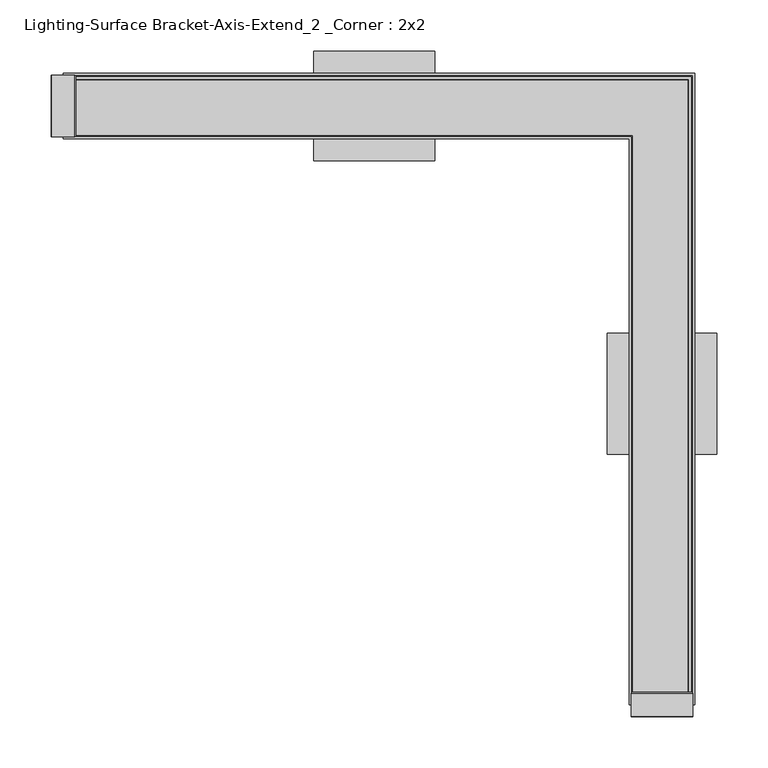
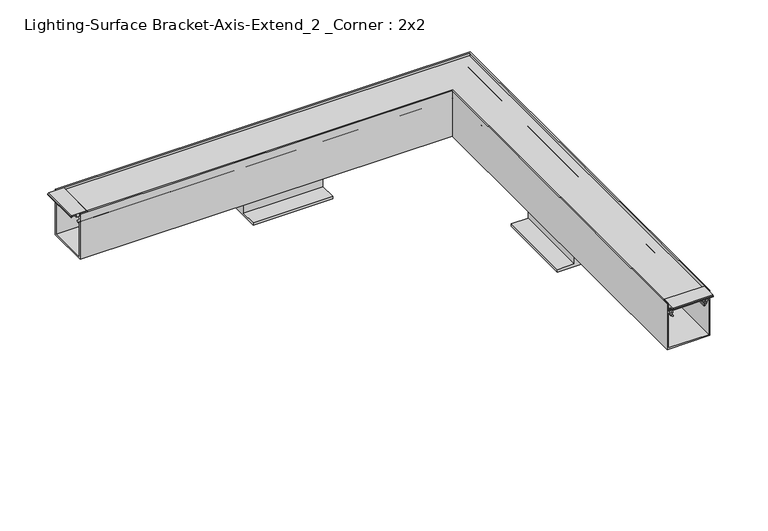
"""IFC4 building model written with IfcOpenShell, lengths in millimetres: light fixture geometry, Lighting-Surface Bracket-Axis-Extend_2 _Corner : 2x2."""

from ifc_helpers import new_model, si_unit, frame, origin, place, context, project, spatial, polyline, circle_curve, ellipse_curve, outline, extrude, source, transform, mapped, element, save
from ifc_brep_helpers import plane_surface, cylinder_surface, revolved_surface, advanced_brep


def lighting_surface_bracket_axis_extend_2_corner_2x2_bc060365(model_context):
    return source(origin(), model_context, "Body", "SolidModel", [
        extrude(outline(polyline([(19.05, 244.3861), (3.9878, 244.3861), (3.9878, 218.9860665), (0.0, 218.9860665), (0.0, 326.6059335), (3.9878, 326.6059335), (3.9878, 301.2059), (19.05, 301.2059), (19.05, 244.3861)])), frame((0.0, -341.30234, 0.0), z_axis=(0.0, 1.0, 0.0), x_axis=(0.0, 0.0, 1.0)), (0.0, 0.0, 1.0), 118.69928),
        extrude(outline(polyline([(-28.4099, 19.05), (28.4099, 19.05), (28.4099, 3.9878), (53.8099335, 3.9878), (53.8099335, 0.0), (-53.8099335, 0.0), (-53.8099335, 3.9878), (-28.4099, 3.9878), (-28.4099, 19.05)])), frame((-68.50634, 0.0, 0.0), z_axis=(1.0, 0.0, 0.0), x_axis=(0.0, 1.0, 0.0)), (0.0, 0.0, 1.0), 118.69928),
        extrude(outline(polyline([(-574.6496, 89.3857861), (-574.6496, 87.91575), (-575.44335, 87.91575), (-575.44335, 88.7095), (-581.914, 88.7095), (-581.914, 85.9032981), (-591.5914, 85.9032981), (-591.5914, 88.7095), (-598.06205, 88.7095), (-598.06205, 87.91575), (-598.8558, 87.91575), (-598.8558, 89.3857861), (-597.9312563, 90.4875), (-575.5741437, 90.4875), (-574.6496, 89.3857861)])), frame((242.824, 0.0, 0.0), z_axis=(1.0, 0.0, 0.0), x_axis=(0.0, 1.0, 0.0)), (0.0, 0.0, 1.0), 59.944),
        extrude(outline(polyline([(89.3857861, -301.8536), (90.4875, -302.7781437), (90.4875, -325.1352563), (89.3857861, -326.0598), (87.91575, -326.0598), (87.91575, -325.26605), (88.7095, -325.26605), (88.7095, -318.7954), (85.9032981, -318.7954), (85.9032981, -309.118), (88.7095, -309.118), (88.7095, -302.64735), (87.91575, -302.64735), (87.91575, -301.8536), (89.3857861, -301.8536)])), frame((0.0, -29.972, 0.0), z_axis=(0.0, 1.0, 0.0), x_axis=(0.0, 0.0, 1.0)), (0.0, 0.0, 1.0), 59.944),
        advanced_brep(
        [(-304.8, -24.1727262, 85.5979991), (-304.8, -24.5114181, 79.1353737), (-304.8, -25.3818814, 72.5294903), (-304.8, -24.5665956, 71.0317575), (-304.8, -23.2119066, 69.8323555), (-304.8, -24.192808, 68.5043369), (-304.8, -25.7659952, 69.8971908), (-304.8, -27.1108807, 73.72776), (-304.8, -25.4753941, 77.7669658), (-304.8, -26.1394859, 79.6161789), (-304.8, -25.825992, 85.5979991), (-304.8, -28.829, 85.5979991), (-304.8, -28.829, 87.503), (-304.8, 28.829, 87.503), (-304.8, 28.829, 85.5979991), (-304.8, 25.825992, 85.5979991), (-304.8, 26.1394859, 79.6161789), (-304.8, 25.4753941, 77.7669658), (-304.8, 27.1108807, 73.72776), (-304.8, 25.7659952, 69.8971908), (-304.8, 24.192808, 68.5043369), (-304.8, 23.2119066, 69.8323555), (-304.8, 24.5665956, 71.0317575), (-304.8, 25.3818814, 72.5294903), (-304.8, 24.5114181, 79.1353737), (-304.8, 24.1727262, 85.5979991), (248.6232738, -586.7527, 85.5979991), (296.9687262, -586.7527, 85.5979991), (297.3074181, -586.7527, 79.1353737), (298.1778814, -586.7527, 72.5294903), (297.3625956, -586.7527, 71.0317575), (296.0079066, -586.7527, 69.8323555), (296.988808, -586.7527, 68.5043369), (298.5619952, -586.7527, 69.8971908), (299.9068807, -586.7527, 73.72776), (298.2713941, -586.7527, 77.7669658), (298.9354859, -586.7527, 79.6161789), (298.621992, -586.7527, 85.5979991), (301.625, -586.7527, 85.5979991), (301.625, -586.7527, 87.503), (243.967, -586.7527, 87.503), (243.967, -586.7527, 85.5979991), (246.970008, -586.7527, 85.5979991), (246.6565141, -586.7527, 79.6161789), (247.3206059, -586.7527, 77.7669658), (245.6851193, -586.7527, 73.72776), (247.0300048, -586.7527, 69.8971908), (248.603192, -586.7527, 68.5043369), (249.5840934, -586.7527, 69.8323555), (248.2294044, -586.7527, 71.0317575), (247.4141186, -586.7527, 72.5294903), (248.2845819, -586.7527, 79.1353737), (248.6232738, -24.1727262, 85.5979991), (248.2845819, -24.5114181, 79.1353737), (247.4141186, -25.3818814, 72.5294903), (248.2294044, -24.5665956, 71.0317575), (249.5840934, -23.2119066, 69.8323555), (248.603192, -24.192808, 68.5043369), (247.0300048, -25.7659952, 69.8971908), (245.6851193, -27.1108807, 73.72776), (247.3206059, -25.4753941, 77.7669658), (246.6565141, -26.1394859, 79.6161789), (246.970008, -25.825992, 85.5979991), (243.967, -28.829, 85.5979991), (243.967, -28.829, 87.503), (301.625, 28.829, 87.503), (301.625, 28.829, 85.5979991), (298.621992, 25.825992, 85.5979991), (298.9354859, 26.1394859, 79.6161789), (298.2713941, 25.4753941, 77.7669658), (299.9068807, 27.1108807, 73.72776), (298.5619952, 25.7659952, 69.8971908), (296.988808, 24.192808, 68.5043369), (296.0079066, 23.2119066, 69.8323555), (297.3625956, 24.5665956, 71.0317575), (298.1778814, 25.3818814, 72.5294903), (297.3074181, 24.5114181, 79.1353737), (296.9687262, 24.1727262, 85.5979991)],
        [
            (0, 1),
            (1, 2, circle_curve(frame((-304.8, -27.2542, 76.1365), z_axis=(-1.0, 0.0, 0.0), x_axis=(0.0, 0.6748971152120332, 0.7379118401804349)), 4.064)),
            (2, 3, circle_curve(frame((-304.8, -22.149344, 73.3183457), z_axis=(1.0, 0.0, 0.0), x_axis=(0.0, -0.9714904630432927, -0.23707863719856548)), 3.3274001)),
            (3, 4, circle_curve(frame((-304.8, -17.1303177, 78.0660708), z_axis=(1.0, 0.0, 0.0), x_axis=(0.0, -0.7264901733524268, -0.68717685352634)), 10.2362001)),
            (4, 5, circle_curve(frame((-304.8, -23.7023573, 69.1683462), z_axis=(-1.0, 0.0, 0.0), x_axis=(0.0, 0.5941256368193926, 0.8043722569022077)), 0.8255)),
            (5, 6, circle_curve(frame((-304.8, -17.1303169, 78.0660717), z_axis=(-1.0, 0.0, 0.0), x_axis=(0.0, -0.594125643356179, -0.8043722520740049)), 11.8872013)),
            (6, 7, circle_curve(frame((-304.8, -22.149344, 73.3183457), z_axis=(-1.0, 0.0, 0.0), x_axis=(0.0, -0.7264685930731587, -0.6871996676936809)), 4.9784001)),
            (7, 8, circle_curve(frame((-304.8, -27.2542, 76.1365), z_axis=(1.0, 0.0, 0.0), x_axis=(0.0, 0.05939464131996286, -0.9982345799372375)), 2.413)),
            (8, 9, circle_curve(frame((-304.8, -23.6029669, 79.4832456), z_axis=(-1.0, 0.0, 0.0), x_axis=(0.0, -0.7371760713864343, -0.675700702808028)), 2.54)),
            (9, 10),
            (10, 11),
            (11, 12),
            (12, 13),
            (13, 14),
            (14, 15),
            (15, 16),
            (16, 17, circle_curve(frame((-304.8, 23.6029669, 79.4832456), z_axis=(-1.0, 0.0, 0.0), x_axis=(0.0, 0.9986295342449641, 0.05233596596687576)), 2.54)),
            (17, 18, circle_curve(frame((-304.8, 27.2542, 76.1365), z_axis=(1.0, 0.0, 0.0), x_axis=(0.0, -0.7371760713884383, 0.6757007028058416)), 2.413)),
            (18, 19, circle_curve(frame((-304.8, 22.149344, 73.3183457), z_axis=(-1.0, 0.0, 0.0), x_axis=(0.0, 0.9966127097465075, 0.0822381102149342)), 4.9784001)),
            (19, 20, circle_curve(frame((-304.8, 17.1303169, 78.0660717), z_axis=(-1.0, 0.0, 0.0), x_axis=(0.0, 0.7264685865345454, -0.6871996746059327)), 11.8872013)),
            (20, 21, circle_curve(frame((-304.8, 23.7023573, 69.1683462), z_axis=(-1.0, 0.0, 0.0), x_axis=(0.0, 0.5941256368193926, -0.8043722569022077)), 0.8255)),
            (21, 22, circle_curve(frame((-304.8, 17.1303177, 78.0660708), z_axis=(1.0, 0.0, 0.0), x_axis=(0.0, 0.5941256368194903, -0.8043722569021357)), 10.2362001)),
            (22, 23, circle_curve(frame((-304.8, 22.149344, 73.3183457), z_axis=(1.0, 0.0, 0.0), x_axis=(0.0, 0.7265349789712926, -0.6871294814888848)), 3.3274001)),
            (23, 24, circle_curve(frame((-304.8, 27.2542, 76.1365), z_axis=(-1.0, 0.0, 0.0), x_axis=(0.0, -0.46070831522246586, -0.8875516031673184)), 4.064)),
            (24, 25),
            (25, 0),
            (26, 27),
            (27, 28),
            (28, 29, circle_curve(frame((300.0502, -586.7527, 76.1365), z_axis=(0.0, -1.0, 0.0), x_axis=(-0.46070831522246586, 0.0, -0.8875516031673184)), 4.064)),
            (29, 30, circle_curve(frame((294.945344, -586.7527, 73.3183457), z_axis=(0.0, 1.0, 0.0), x_axis=(0.7265349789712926, 0.0, -0.6871294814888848)), 3.3274001)),
            (30, 31, circle_curve(frame((289.9263177, -586.7527, 78.0660708), z_axis=(0.0, 1.0, 0.0), x_axis=(0.5941256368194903, 0.0, -0.8043722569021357)), 10.2362001)),
            (31, 32, circle_curve(frame((296.4983573, -586.7527, 69.1683462), z_axis=(0.0, -1.0, 0.0), x_axis=(0.5941256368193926, 0.0, -0.8043722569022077)), 0.8255)),
            (32, 33, circle_curve(frame((289.9263169, -586.7527, 78.0660717), z_axis=(0.0, -1.0, 0.0), x_axis=(0.7264685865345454, 0.0, -0.6871996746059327)), 11.8872013)),
            (33, 34, circle_curve(frame((294.945344, -586.7527, 73.3183457), z_axis=(0.0, -1.0, 0.0), x_axis=(0.9966127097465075, 0.0, 0.0822381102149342)), 4.9784001)),
            (34, 35, circle_curve(frame((300.0502, -586.7527, 76.1365), z_axis=(0.0, 1.0, 0.0), x_axis=(-0.7371760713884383, 0.0, 0.6757007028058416)), 2.413)),
            (35, 36, circle_curve(frame((296.3989669, -586.7527, 79.4832456), z_axis=(0.0, -1.0, 0.0), x_axis=(0.9986295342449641, 0.0, 0.05233596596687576)), 2.54)),
            (36, 37),
            (37, 38),
            (38, 39),
            (39, 40),
            (40, 41),
            (41, 42),
            (42, 43),
            (43, 44, circle_curve(frame((249.1930331, -586.7527, 79.4832456), z_axis=(0.0, -1.0, 0.0), x_axis=(-0.7371760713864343, 0.0, -0.675700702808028)), 2.54)),
            (44, 45, circle_curve(frame((245.5418, -586.7527, 76.1365), z_axis=(0.0, 1.0, 0.0), x_axis=(0.05939464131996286, 0.0, -0.9982345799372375)), 2.413)),
            (45, 46, circle_curve(frame((250.646656, -586.7527, 73.3183457), z_axis=(0.0, -1.0, 0.0), x_axis=(-0.7264685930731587, 0.0, -0.6871996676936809)), 4.9784001)),
            (46, 47, circle_curve(frame((255.6656831, -586.7527, 78.0660717), z_axis=(0.0, -1.0, 0.0), x_axis=(-0.594125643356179, 0.0, -0.8043722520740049)), 11.8872013)),
            (47, 48, circle_curve(frame((249.0936427, -586.7527, 69.1683462), z_axis=(0.0, -1.0, 0.0), x_axis=(0.5941256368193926, 0.0, 0.8043722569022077)), 0.8255)),
            (48, 49, circle_curve(frame((255.6656823, -586.7527, 78.0660708), z_axis=(0.0, 1.0, 0.0), x_axis=(-0.7264901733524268, 0.0, -0.68717685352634)), 10.2362001)),
            (49, 50, circle_curve(frame((250.646656, -586.7527, 73.3183457), z_axis=(0.0, 1.0, 0.0), x_axis=(-0.9714904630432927, 0.0, -0.23707863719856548)), 3.3274001)),
            (50, 51, circle_curve(frame((245.5418, -586.7527, 76.1365), z_axis=(0.0, -1.0, 0.0), x_axis=(0.6748971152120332, 0.0, 0.7379118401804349)), 4.064)),
            (51, 26),
            (0, 52),
            (52, 53),
            (53, 1),
            (53, 54, ellipse_curve(frame((245.5418, -27.2542, 76.1365), z_axis=(-0.7071067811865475, 0.7071067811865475, 0.0), x_axis=(-0.7071067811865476, -0.7071067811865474, 0.0)), 5.7473639, 4.064)),
            (54, 2),
            (54, 55, ellipse_curve(frame((250.646656, -22.149344, 73.3183457), z_axis=(0.7071067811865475, -0.7071067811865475, 0.0), x_axis=(0.7071067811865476, 0.7071067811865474, 0.0)), 4.7056543, 3.3274001)),
            (55, 3),
            (55, 56, ellipse_curve(frame((255.6656823, -17.1303177, 78.0660708), z_axis=(0.7071067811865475, -0.7071067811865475, 0.0), x_axis=(0.7071067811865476, 0.7071067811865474, 0.0)), 14.476173, 10.2362001)),
            (56, 4),
            (56, 57, ellipse_curve(frame((249.0936427, -23.7023573, 69.1683462), z_axis=(-0.7071067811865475, 0.7071067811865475, 0.0), x_axis=(-0.7071067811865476, -0.7071067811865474, 0.0)), 1.1674333, 0.8255)),
            (57, 5),
            (57, 58, ellipse_curve(frame((255.6656831, -17.1303169, 78.0660717), z_axis=(-0.7071067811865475, 0.7071067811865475, 0.0), x_axis=(-0.7071067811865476, -0.7071067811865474, 0.0)), 16.8110412, 11.8872013)),
            (58, 6),
            (58, 59, ellipse_curve(frame((250.646656, -22.149344, 73.3183457), z_axis=(-0.7071067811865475, 0.7071067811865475, 0.0), x_axis=(-0.7071067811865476, -0.7071067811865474, 0.0)), 7.0405209, 4.9784001)),
            (59, 7),
            (59, 60, ellipse_curve(frame((245.5418, -27.2542, 76.1365), z_axis=(0.7071067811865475, -0.7071067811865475, 0.0), x_axis=(0.7071067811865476, 0.7071067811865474, 0.0)), 3.4124973, 2.413)),
            (60, 8),
            (60, 61, ellipse_curve(frame((249.1930331, -23.6029669, 79.4832456), z_axis=(-0.7071067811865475, 0.7071067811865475, 0.0), x_axis=(-0.7071067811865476, -0.7071067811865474, 0.0)), 3.5921024, 2.54)),
            (61, 9),
            (61, 62),
            (62, 10),
            (62, 42),
            (41, 63),
            (63, 11),
            (63, 64),
            (64, 12),
            (64, 40),
            (39, 65),
            (65, 13),
            (65, 66),
            (66, 14),
            (66, 38),
            (37, 67),
            (67, 15),
            (67, 68),
            (68, 16),
            (68, 69, ellipse_curve(frame((296.3989669, 23.6029669, 79.4832456), z_axis=(-0.7071067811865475, 0.7071067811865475, 0.0), x_axis=(-0.7071067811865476, -0.7071067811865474, 0.0)), 3.5921024, 2.54)),
            (69, 17),
            (69, 70, ellipse_curve(frame((300.0502, 27.2542, 76.1365), z_axis=(0.7071067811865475, -0.7071067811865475, 0.0), x_axis=(0.7071067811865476, 0.7071067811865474, 0.0)), 3.4124973, 2.413)),
            (70, 18),
            (70, 71, ellipse_curve(frame((294.945344, 22.149344, 73.3183457), z_axis=(-0.7071067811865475, 0.7071067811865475, 0.0), x_axis=(-0.7071067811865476, -0.7071067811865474, 0.0)), 7.0405209, 4.9784001)),
            (71, 19),
            (71, 72, ellipse_curve(frame((289.9263169, 17.1303169, 78.0660717), z_axis=(-0.7071067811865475, 0.7071067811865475, 0.0), x_axis=(-0.7071067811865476, -0.7071067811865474, 0.0)), 16.8110412, 11.8872013)),
            (72, 20),
            (72, 73, ellipse_curve(frame((296.4983573, 23.7023573, 69.1683462), z_axis=(-0.7071067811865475, 0.7071067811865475, 0.0), x_axis=(-0.7071067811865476, -0.7071067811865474, 0.0)), 1.1674333, 0.8255)),
            (73, 21),
            (73, 74, ellipse_curve(frame((289.9263177, 17.1303177, 78.0660708), z_axis=(0.7071067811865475, -0.7071067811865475, 0.0), x_axis=(0.7071067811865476, 0.7071067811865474, 0.0)), 14.476173, 10.2362001)),
            (74, 22),
            (74, 75, ellipse_curve(frame((294.945344, 22.149344, 73.3183457), z_axis=(0.7071067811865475, -0.7071067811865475, 0.0), x_axis=(0.7071067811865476, 0.7071067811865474, 0.0)), 4.7056543, 3.3274001)),
            (75, 23),
            (75, 76, ellipse_curve(frame((300.0502, 27.2542, 76.1365), z_axis=(-0.7071067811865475, 0.7071067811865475, 0.0), x_axis=(-0.7071067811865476, -0.7071067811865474, 0.0)), 5.7473639, 4.064)),
            (76, 24),
            (76, 77),
            (77, 25),
            (77, 27),
            (26, 52),
            (51, 53),
            (50, 54),
            (49, 55),
            (48, 56),
            (47, 57),
            (46, 58),
            (45, 59),
            (44, 60),
            (43, 61),
            (36, 68),
            (35, 69),
            (34, 70),
            (33, 71),
            (32, 72),
            (31, 73),
            (30, 74),
            (29, 75),
            (28, 76),
        ],
        [
            plane_surface(frame((-304.8, 0.0, 0.0), z_axis=(-1.0, 0.0, 0.0), x_axis=(0.0, 0.0, 1.0))),
            plane_surface(frame((272.796, -586.7527, 0.0), z_axis=(0.0, -1.0, 0.0), x_axis=(0.0, 0.0, 1.0))),
            plane_surface(frame((-304.8, -24.1727262, 85.5979991), z_axis=(0.0, 0.9986295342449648, -0.05233596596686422), x_axis=(1.0, 0.0, 0.0))),
            cylinder_surface(frame((-304.8, -27.2542, 76.1365), z_axis=(-1.0, 0.0, 0.0), x_axis=(0.0, 0.6748971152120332, 0.7379118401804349)), 4.064),
            revolved_surface(polyline([(253.97405606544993, -25.3818814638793, 72.52949021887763), (-304.8, -25.3818814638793, 72.52949021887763)]), (-304.8, -22.149344, 73.3183457), (1.0000000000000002, 0.0, 0.0)),
            revolved_surface(polyline([(265.9018823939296, -24.566816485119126, 71.031991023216), (-304.8, -24.566816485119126, 71.031991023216)]), (-304.8, -17.1303177, 78.0660708), (1.0, 0.0, 0.0)),
            cylinder_surface(frame((-304.8, -23.7023573, 69.1683462), z_axis=(-1.0, 0.0, 0.0), x_axis=(0.0, 0.5941256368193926, 0.8043722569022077)), 0.8255),
            cylinder_surface(frame((-304.8, -17.1303169, 78.0660717), z_axis=(-1.0, 0.0, 0.0), x_axis=(0.0, -0.594125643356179, -0.8043722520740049)), 11.8872013),
            cylinder_surface(frame((-304.8, -22.149344, 73.3183457), z_axis=(-1.0, 0.0, 0.0), x_axis=(0.0, -0.7264685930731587, -0.6871996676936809)), 4.9784001),
            revolved_surface(polyline([(247.95479998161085, -27.11088073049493, 73.72775995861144), (-304.8, -27.11088073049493, 73.72775995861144)]), (-304.8, -27.2542, 76.1365), (1.0, 0.0, 0.0)),
            cylinder_surface(frame((-304.8, -23.6029669, 79.4832456), z_axis=(-1.0, 0.0, 0.0), x_axis=(0.0, -0.7371760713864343, -0.675700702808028)), 2.54),
            plane_surface(frame((-304.8, -26.1394859, 79.6161789), z_axis=(0.0, -0.9986295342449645, 0.05233596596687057), x_axis=(1.0, 0.0, 0.0))),
            plane_surface(frame((-304.8, -25.825992, 85.5979991), z_axis=(0.0, 0.0, -1.0), x_axis=(1.0, 0.0, 0.0))),
            plane_surface(frame((-304.8, -28.829, 85.5979991), z_axis=(0.0, -1.0, 0.0), x_axis=(1.0, 0.0, 0.0))),
            plane_surface(frame((-304.8, -28.829, 87.503), z_axis=(0.0, 0.0, 1.0), x_axis=(1.0, 0.0, 0.0))),
            plane_surface(frame((-304.8, 28.829, 87.503), z_axis=(0.0, 1.0, 0.0), x_axis=(1.0, 0.0, 0.0))),
            plane_surface(frame((-304.8, 28.829, 85.5979991), z_axis=(0.0, 0.0, -1.0), x_axis=(1.0, 0.0, 0.0))),
            plane_surface(frame((-304.8, 25.825992, 85.5979991), z_axis=(0.0, 0.9986295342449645, 0.05233596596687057), x_axis=(1.0, 0.0, 0.0))),
            cylinder_surface(frame((-304.8, 23.6029669, 79.4832456), z_axis=(-1.0, 0.0, 0.0), x_axis=(0.0, 0.9986295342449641, 0.05233596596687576)), 2.54),
            revolved_surface(polyline([(302.4631999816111, 25.4753941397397, 77.76696579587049), (-304.8, 25.4753941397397, 77.76696579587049)]), (-304.8, 27.2542, 76.1365), (1.0000000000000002, 0.0, 0.0)),
            cylinder_surface(frame((-304.8, 22.149344, 73.3183457), z_axis=(-1.0000000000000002, 0.0, 0.0), x_axis=(0.0, 0.9966127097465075, 0.0822381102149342)), 4.9784001),
            cylinder_surface(frame((-304.8, 17.1303169, 78.0660717), z_axis=(-1.0, 0.0, 0.0), x_axis=(0.0, 0.7264685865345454, -0.6871996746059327)), 11.8872013),
            cylinder_surface(frame((-304.8, 23.7023573, 69.1683462), z_axis=(-1.0, 0.0, 0.0), x_axis=(0.0, 0.5941256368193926, -0.8043722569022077)), 0.8255),
            revolved_surface(polyline([(300.16251779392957, 23.21190660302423, 69.83235542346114), (-304.8, 23.21190660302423, 69.83235542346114)]), (-304.8, 17.1303177, 78.0660708), (1.0, 0.0, 0.0)),
            revolved_surface(polyline([(298.2727440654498, 24.566816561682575, 71.03199099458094), (-304.8, 24.566816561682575, 71.03199099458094)]), (-304.8, 22.149344, 73.3183457), (1.0000000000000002, 0.0, 0.0)),
            cylinder_surface(frame((-304.8, 27.2542, 76.1365), z_axis=(-1.0, 0.0, 0.0), x_axis=(0.0, -0.46070831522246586, -0.8875516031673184)), 4.064),
            plane_surface(frame((-304.8, 24.5114181, 79.1353737), z_axis=(0.0, -0.9986295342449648, -0.05233596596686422), x_axis=(1.0, 0.0, 0.0))),
            plane_surface(frame((-304.8, 24.1727262, 85.5979991), z_axis=(0.0, 0.0, -1.0), x_axis=(1.0, 0.0, 0.0))),
            plane_surface(frame((248.6232738, -24.1727262, 85.5979991), z_axis=(0.9986295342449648, 0.0, -0.05233596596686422), x_axis=(0.0, -1.0, 0.0))),
            cylinder_surface(frame((245.5418, 0.0, 76.1365), z_axis=(0.0, 1.0, 0.0), x_axis=(0.6748971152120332, 0.0, 0.7379118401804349)), 4.064),
            revolved_surface(polyline([(247.4141185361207, -586.7527000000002, 72.52949021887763), (247.4141185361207, -18.82194393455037, 72.52949021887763)]), (250.646656, 0.0, 73.3183457), (0.0, -1.0000000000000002, 0.0)),
            revolved_surface(polyline([(248.22918351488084, -586.7527, 71.031991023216), (248.22918351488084, -6.894117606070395, 71.031991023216)]), (255.6656823, 0.0, 78.0660708), (0.0, -1.0, 0.0)),
            cylinder_surface(frame((249.0936427, 0.0, 69.1683462), z_axis=(0.0, 1.0, 0.0), x_axis=(0.5941256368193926, 0.0, 0.8043722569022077)), 0.8255),
            cylinder_surface(frame((255.6656831, 0.0, 78.0660717), z_axis=(0.0, 1.0, 0.0), x_axis=(-0.594125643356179, 0.0, -0.8043722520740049)), 11.8872013),
            cylinder_surface(frame((250.646656, 0.0, 73.3183457), z_axis=(0.0, 1.0, 0.0), x_axis=(-0.7264685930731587, 0.0, -0.6871996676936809)), 4.9784001),
            revolved_surface(polyline([(245.68511926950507, -586.7527, 73.72775995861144), (245.68511926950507, -24.841200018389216, 73.72775995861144)]), (245.5418, 0.0, 76.1365), (0.0, -1.0, 0.0)),
            cylinder_surface(frame((249.1930331, 0.0, 79.4832456), z_axis=(0.0, 1.0, 0.0), x_axis=(-0.7371760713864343, 0.0, -0.675700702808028)), 2.54),
            plane_surface(frame((246.6565141, -26.1394859, 79.6161789), z_axis=(-0.9986295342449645, 0.0, 0.05233596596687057), x_axis=(0.0, -1.0, 0.0))),
            plane_surface(frame((243.967, -28.829, 85.5979991), z_axis=(-1.0, 0.0, 0.0), x_axis=(0.0, -1.0, 0.0))),
            plane_surface(frame((301.625, 28.829, 87.503), z_axis=(1.0, 0.0, 0.0), x_axis=(0.0, -1.0, 0.0))),
            plane_surface(frame((298.621992, 25.825992, 85.5979991), z_axis=(0.9986295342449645, 0.0, 0.05233596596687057), x_axis=(0.0, -1.0, 0.0))),
            cylinder_surface(frame((296.3989669, 0.0, 79.4832456), z_axis=(0.0, 1.0, 0.0), x_axis=(0.9986295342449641, 0.0, 0.05233596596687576)), 2.54),
            revolved_surface(polyline([(298.2713941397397, -586.7527000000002, 77.76696579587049), (298.2713941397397, 29.6671999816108, 77.76696579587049)]), (300.0502, 0.0, 76.1365), (0.0, -1.0000000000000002, 0.0)),
            cylinder_surface(frame((294.945344, 0.0, 73.3183457), z_axis=(0.0, 1.0000000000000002, 0.0), x_axis=(0.9966127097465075, 0.0, 0.0822381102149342)), 4.9784001),
            cylinder_surface(frame((289.9263169, 0.0, 78.0660717), z_axis=(0.0, 1.0, 0.0), x_axis=(0.7264685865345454, 0.0, -0.6871996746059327)), 11.8872013),
            cylinder_surface(frame((296.4983573, 0.0, 69.1683462), z_axis=(0.0, 1.0, 0.0), x_axis=(0.5941256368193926, 0.0, -0.8043722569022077)), 0.8255),
            revolved_surface(polyline([(296.00790660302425, -586.7527, 69.83235542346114), (296.00790660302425, 27.366517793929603, 69.83235542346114)]), (289.9263177, 0.0, 78.0660708), (0.0, -1.0, 0.0)),
            revolved_surface(polyline([(297.36281656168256, -586.7527000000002, 71.03199099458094), (297.36281656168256, 25.476744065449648, 71.03199099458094)]), (294.945344, 0.0, 73.3183457), (0.0, -1.0000000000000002, 0.0)),
            cylinder_surface(frame((300.0502, 0.0, 76.1365), z_axis=(0.0, 1.0, 0.0), x_axis=(-0.46070831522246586, 0.0, -0.8875516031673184)), 4.064),
            plane_surface(frame((297.3074181, 24.5114181, 79.1353737), z_axis=(-0.9986295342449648, 0.0, -0.05233596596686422), x_axis=(0.0, -1.0, 0.0))),
        ],
        [
            (0, [[1, 2, 3, 4, 5, 6, 7, 8, 9, 10, 11, 12, 13, 14, 15, 16, 17, 18, 19, 20, 21, 22, 23, 24, 25, 26]]),
            (1, [[27, 28, 29, 30, 31, 32, 33, 34, 35, 36, 37, 38, 39, 40, 41, 42, 43, 44, 45, 46, 47, 48, 49, 50, 51, 52]]),
            (2, [[-1, 53, 54, 55]]),
            (3, [[-2, -55, 56, 57]]),
            (4, [[-3, -57, 58, 59]]),
            (5, [[-4, -59, 60, 61]]),
            (6, [[-5, -61, 62, 63]]),
            (7, [[-6, -63, 64, 65]]),
            (8, [[-7, -65, 66, 67]]),
            (9, [[-8, -67, 68, 69]]),
            (10, [[-9, -69, 70, 71]]),
            (11, [[-10, -71, 72, 73]]),
            (12, [[-11, -73, 74, -42, 75, 76]]),
            (13, [[-12, -76, 77, 78]]),
            (14, [[-13, -78, 79, -40, 80, 81]]),
            (15, [[-14, -81, 82, 83]]),
            (16, [[-15, -83, 84, -38, 85, 86]]),
            (17, [[-16, -86, 87, 88]]),
            (18, [[-17, -88, 89, 90]]),
            (19, [[-18, -90, 91, 92]]),
            (20, [[-19, -92, 93, 94]]),
            (21, [[-20, -94, 95, 96]]),
            (22, [[-21, -96, 97, 98]]),
            (23, [[-22, -98, 99, 100]]),
            (24, [[-23, -100, 101, 102]]),
            (25, [[-24, -102, 103, 104]]),
            (26, [[-25, -104, 105, 106]]),
            (27, [[-26, -106, 107, -27, 108, -53]]),
            (28, [[-54, -108, -52, 109]]),
            (29, [[-56, -109, -51, 110]]),
            (30, [[-58, -110, -50, 111]]),
            (31, [[-60, -111, -49, 112]]),
            (32, [[-62, -112, -48, 113]]),
            (33, [[-64, -113, -47, 114]]),
            (34, [[-66, -114, -46, 115]]),
            (35, [[-68, -115, -45, 116]]),
            (36, [[-70, -116, -44, 117]]),
            (37, [[-72, -117, -43, -74]]),
            (38, [[-77, -75, -41, -79]]),
            (39, [[-82, -80, -39, -84]]),
            (40, [[-87, -85, -37, 118]]),
            (41, [[-89, -118, -36, 119]]),
            (42, [[-91, -119, -35, 120]]),
            (43, [[-93, -120, -34, 121]]),
            (44, [[-95, -121, -33, 122]]),
            (45, [[-97, -122, -32, 123]]),
            (46, [[-99, -123, -31, 124]]),
            (47, [[-101, -124, -30, 125]]),
            (48, [[-103, -125, -29, 126]]),
            (49, [[-105, -126, -28, -107]]),
        ],
    ),
        advanced_brep(
        [(-313.9567, -29.972, 75.5777), (-313.9567, -29.972, 21.082), (-313.9567, 29.972, 21.082), (-313.9567, 29.972, 75.5777), (-313.9567, 28.1325797, 75.5777), (-313.9567, 25.8730546, 74.2731626), (-313.9567, 24.6896516, 76.5283682), (-313.9567, 28.067, 79.3623), (-313.9567, 28.067, 77.6097), (-313.9567, 29.972, 77.6097), (-313.9567, 29.972, 84.1375), (-313.9567, 28.067, 84.1375), (-313.9567, 28.067, 82.6135), (-313.9567, 26.416, 82.7000252), (-313.9567, 26.416, 85.4075), (-313.9567, 29.972, 85.4075), (-313.9567, 29.972, 90.4875), (-313.9567, 32.004, 90.4875), (-313.9567, 32.004, 19.05), (-313.9567, -32.004, 19.05), (-313.9567, -32.004, 90.4875), (-313.9567, -29.972, 90.4875), (-313.9567, -29.972, 85.4075), (-313.9567, -26.416, 85.4075), (-313.9567, -26.416, 82.7000252), (-313.9567, -28.067, 82.6135), (-313.9567, -28.067, 84.1375), (-313.9567, -29.972, 84.1375), (-313.9567, -29.972, 77.6097), (-313.9567, -28.067, 77.6097), (-313.9567, -28.067, 79.3623), (-313.9567, -24.6896516, 76.5283682), (-313.9567, -25.8730546, 74.2731626), (-313.9567, -28.1325797, 75.5777), (242.824, -586.7527, 75.5777), (244.6634203, -586.7527, 75.5777), (246.9229454, -586.7527, 74.2731626), (248.1063484, -586.7527, 76.5283682), (244.729, -586.7527, 79.3623), (244.729, -586.7527, 77.6097), (242.824, -586.7527, 77.6097), (242.824, -586.7527, 84.1375), (244.729, -586.7527, 84.1375), (244.729, -586.7527, 82.6135), (246.38, -586.7527, 82.7000252), (246.38, -586.7527, 85.4075), (242.824, -586.7527, 85.4075), (242.824, -586.7527, 90.4875), (240.792, -586.7527, 90.4875), (240.792, -586.7527, 19.05), (304.8, -586.7527, 19.05), (304.8, -586.7527, 90.4875), (302.768, -586.7527, 90.4875), (302.768, -586.7527, 85.4075), (299.212, -586.7527, 85.4075), (299.212, -586.7527, 82.7000252), (300.863, -586.7527, 82.6135), (300.863, -586.7527, 84.1375), (302.768, -586.7527, 84.1375), (302.768, -586.7527, 77.6097), (300.863, -586.7527, 77.6097), (300.863, -586.7527, 79.3623), (297.4856516, -586.7527, 76.5283682), (298.6690546, -586.7527, 74.2731626), (300.9285797, -586.7527, 75.5777), (302.768, -586.7527, 75.5777), (302.768, -586.7527, 21.082), (242.824, -586.7527, 21.082), (242.824, -29.972, 75.5777), (242.824, -29.972, 21.082), (302.768, 29.972, 21.082), (302.768, 29.972, 75.5777), (300.9285797, 28.1325797, 75.5777), (298.6690546, 25.8730546, 74.2731626), (297.4856516, 24.6896516, 76.5283682), (300.863, 28.067, 79.3623), (300.863, 28.067, 77.6097), (302.768, 29.972, 77.6097), (302.768, 29.972, 84.1375), (300.863, 28.067, 84.1375), (300.863, 28.067, 82.6135), (299.212, 26.416, 82.7000252), (299.212, 26.416, 85.4075), (302.768, 29.972, 85.4075), (302.768, 29.972, 90.4875), (304.8, 32.004, 90.4875), (304.8, 32.004, 19.05), (240.792, -32.004, 19.05), (240.792, -32.004, 90.4875), (242.824, -29.972, 90.4875), (242.824, -29.972, 85.4075), (246.38, -26.416, 85.4075), (246.38, -26.416, 82.7000252), (244.729, -28.067, 82.6135), (244.729, -28.067, 84.1375), (242.824, -29.972, 84.1375), (242.824, -29.972, 77.6097), (244.729, -28.067, 77.6097), (244.729, -28.067, 79.3623), (248.1063484, -24.6896516, 76.5283682), (246.9229454, -25.8730546, 74.2731626), (244.6634203, -28.1325797, 75.5777)],
        [
            (0, 1),
            (1, 2),
            (2, 3),
            (3, 4),
            (4, 5, circle_curve(frame((-313.9567, 26.6262297, 75.5777), z_axis=(-1.0, 0.0, 0.0), x_axis=(0.0, -0.5000000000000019, -0.8660254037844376)), 1.5063501)),
            (5, 6, circle_curve(frame((-313.9567, 27.0642121, 76.3363079), z_axis=(-1.0, 0.0, 0.0), x_axis=(0.0, -0.9967449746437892, 0.08061920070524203)), 2.382315)),
            (6, 7),
            (7, 8),
            (8, 9),
            (9, 10),
            (10, 11),
            (11, 12),
            (12, 13),
            (13, 14),
            (14, 15),
            (15, 16),
            (16, 17),
            (17, 18),
            (18, 19),
            (19, 20),
            (20, 21),
            (21, 22),
            (22, 23),
            (23, 24),
            (24, 25),
            (25, 26),
            (26, 27),
            (27, 28),
            (28, 29),
            (29, 30),
            (30, 31),
            (31, 32, circle_curve(frame((-313.9567, -27.0642121, 76.3363079), z_axis=(-1.0, 0.0, 0.0), x_axis=(0.0, 0.5000000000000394, -0.866025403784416)), 2.382315)),
            (32, 33, circle_curve(frame((-313.9567, -26.6262297, 75.5777), z_axis=(-1.0, 0.0, 0.0), x_axis=(0.0, -1.0, 0.0)), 1.5063501)),
            (33, 0),
            (34, 35),
            (35, 36, circle_curve(frame((246.1697703, -586.7527, 75.5777), z_axis=(0.0, -1.0, 0.0), x_axis=(-1.0, 0.0, 0.0)), 1.5063501)),
            (36, 37, circle_curve(frame((245.7317879, -586.7527, 76.3363079), z_axis=(0.0, -1.0, 0.0), x_axis=(0.5000000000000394, 0.0, -0.866025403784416)), 2.382315)),
            (37, 38),
            (38, 39),
            (39, 40),
            (40, 41),
            (41, 42),
            (42, 43),
            (43, 44),
            (44, 45),
            (45, 46),
            (46, 47),
            (47, 48),
            (48, 49),
            (49, 50),
            (50, 51),
            (51, 52),
            (52, 53),
            (53, 54),
            (54, 55),
            (55, 56),
            (56, 57),
            (57, 58),
            (58, 59),
            (59, 60),
            (60, 61),
            (61, 62),
            (62, 63, circle_curve(frame((299.8602121, -586.7527, 76.3363079), z_axis=(0.0, -1.0, 0.0), x_axis=(-0.9967449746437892, 0.0, 0.08061920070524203)), 2.382315)),
            (63, 64, circle_curve(frame((299.4222297, -586.7527, 75.5777), z_axis=(0.0, -1.0, 0.0), x_axis=(-0.5000000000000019, 0.0, -0.8660254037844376)), 1.5063501)),
            (64, 65),
            (65, 66),
            (66, 67),
            (67, 34),
            (0, 68),
            (68, 69),
            (69, 1),
            (69, 67),
            (66, 70),
            (70, 2),
            (70, 71),
            (71, 3),
            (71, 65),
            (64, 72),
            (72, 4),
            (72, 73, ellipse_curve(frame((299.4222297, 26.6262297, 75.5777), z_axis=(-0.7071067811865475, 0.7071067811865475, 0.0), x_axis=(-0.7071067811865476, -0.7071067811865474, 0.0)), 2.1303007, 1.5063501)),
            (73, 5),
            (73, 74, ellipse_curve(frame((299.8602121, 27.0642121, 76.3363079), z_axis=(-0.7071067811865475, 0.7071067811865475, 0.0), x_axis=(-0.7071067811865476, -0.7071067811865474, 0.0)), 3.3691022, 2.382315)),
            (74, 6),
            (74, 75),
            (75, 7),
            (75, 76),
            (76, 8),
            (76, 60),
            (59, 77),
            (77, 9),
            (77, 78),
            (78, 10),
            (78, 58),
            (57, 79),
            (79, 11),
            (79, 80),
            (80, 12),
            (80, 81),
            (81, 13),
            (81, 82),
            (82, 14),
            (82, 54),
            (53, 83),
            (83, 15),
            (83, 84),
            (84, 16),
            (84, 52),
            (51, 85),
            (85, 17),
            (85, 86),
            (86, 18),
            (86, 50),
            (49, 87),
            (87, 19),
            (87, 88),
            (88, 20),
            (88, 48),
            (47, 89),
            (89, 21),
            (89, 90),
            (90, 22),
            (90, 46),
            (45, 91),
            (91, 23),
            (91, 92),
            (92, 24),
            (92, 93),
            (93, 25),
            (93, 94),
            (94, 26),
            (94, 42),
            (41, 95),
            (95, 27),
            (95, 96),
            (96, 28),
            (96, 40),
            (39, 97),
            (97, 29),
            (97, 98),
            (98, 30),
            (98, 99),
            (99, 31),
            (99, 100, ellipse_curve(frame((245.7317879, -27.0642121, 76.3363079), z_axis=(-0.7071067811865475, 0.7071067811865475, 0.0), x_axis=(-0.7071067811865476, -0.7071067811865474, 0.0)), 3.3691022, 2.382315)),
            (100, 32),
            (100, 101, ellipse_curve(frame((246.1697703, -26.6262297, 75.5777), z_axis=(-0.7071067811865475, 0.7071067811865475, 0.0), x_axis=(-0.7071067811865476, -0.7071067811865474, 0.0)), 2.1303007, 1.5063501)),
            (101, 33),
            (101, 35),
            (34, 68),
            (63, 73),
            (62, 74),
            (61, 75),
            (56, 80),
            (55, 81),
            (44, 92),
            (43, 93),
            (38, 98),
            (37, 99),
            (36, 100),
        ],
        [
            plane_surface(frame((-313.9567, 0.0, 0.0), z_axis=(-1.0, 0.0, 0.0), x_axis=(0.0, 0.0, 1.0))),
            plane_surface(frame((272.796, -586.7527, 0.0), z_axis=(0.0, -1.0, 0.0), x_axis=(0.0, 0.0, 1.0))),
            plane_surface(frame((-313.9567, -29.972, 75.5777), z_axis=(0.0, 1.0, 0.0), x_axis=(1.0, 0.0, 0.0))),
            plane_surface(frame((-313.9567, -29.972, 21.082), z_axis=(0.0, 0.0, 1.0), x_axis=(1.0, 0.0, 0.0))),
            plane_surface(frame((-313.9567, 29.972, 21.082), z_axis=(0.0, -1.0, 0.0), x_axis=(1.0, 0.0, 0.0))),
            plane_surface(frame((-313.9567, 29.972, 75.5777), z_axis=(0.0, 0.0, -1.0), x_axis=(1.0, 0.0, 0.0))),
            cylinder_surface(frame((-313.9567, 26.6262297, 75.5777), z_axis=(-1.0, 0.0, 0.0), x_axis=(0.0, -0.5000000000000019, -0.8660254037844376)), 1.5063501),
            cylinder_surface(frame((-313.9567, 27.0642121, 76.3363079), z_axis=(-1.0000000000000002, 0.0, 0.0), x_axis=(0.0, -0.9967449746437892, 0.08061920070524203)), 2.382315),
            plane_surface(frame((-313.9567, 24.6896516, 76.5283682), z_axis=(0.0, -0.6427876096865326, 0.7660444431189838), x_axis=(1.0, 0.0, 0.0))),
            plane_surface(frame((-313.9567, 28.067, 79.3623), z_axis=(0.0, 1.0, 0.0), x_axis=(1.0, 0.0, 0.0))),
            plane_surface(frame((-313.9567, 28.067, 77.6097), z_axis=(0.0, 0.0, 1.0), x_axis=(1.0, 0.0, 0.0))),
            plane_surface(frame((-313.9567, 29.972, 77.6097), z_axis=(0.0, -1.0, 0.0), x_axis=(1.0, 0.0, 0.0))),
            plane_surface(frame((-313.9567, 29.972, 84.1375), z_axis=(0.0, 0.0, -1.0), x_axis=(1.0, 0.0, 0.0))),
            plane_surface(frame((-313.9567, 28.067, 84.1375), z_axis=(0.0, 1.0, 0.0), x_axis=(1.0, 0.0, 0.0))),
            plane_surface(frame((-313.9567, 28.067, 82.6135), z_axis=(0.0, -0.052335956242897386, -0.9986295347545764), x_axis=(1.0, 0.0, 0.0))),
            plane_surface(frame((-313.9567, 26.416, 82.7000252), z_axis=(0.0, -1.0, 0.0), x_axis=(1.0, 0.0, 0.0))),
            plane_surface(frame((-313.9567, 26.416, 85.4075), z_axis=(0.0, 0.0, 1.0), x_axis=(1.0, 0.0, 0.0))),
            plane_surface(frame((-313.9567, 29.972, 85.4075), z_axis=(0.0, -1.0, 0.0), x_axis=(1.0, 0.0, 0.0))),
            plane_surface(frame((-313.9567, 29.972, 90.4875), z_axis=(0.0, 0.0, 1.0), x_axis=(1.0, 0.0, 0.0))),
            plane_surface(frame((-313.9567, 32.004, 90.4875), z_axis=(0.0, 1.0, 0.0), x_axis=(1.0, 0.0, 0.0))),
            plane_surface(frame((-313.9567, 32.004, 19.05), z_axis=(0.0, 0.0, -1.0), x_axis=(1.0, 0.0, 0.0))),
            plane_surface(frame((-313.9567, -32.004, 19.05), z_axis=(0.0, -1.0, 0.0), x_axis=(1.0, 0.0, 0.0))),
            plane_surface(frame((-313.9567, -32.004, 90.4875), z_axis=(0.0, 0.0, 1.0), x_axis=(1.0, 0.0, 0.0))),
            plane_surface(frame((-313.9567, -29.972, 90.4875), z_axis=(0.0, 1.0, 0.0), x_axis=(1.0, 0.0, 0.0))),
            plane_surface(frame((-313.9567, -29.972, 85.4075), z_axis=(0.0, 0.0, 1.0), x_axis=(1.0, 0.0, 0.0))),
            plane_surface(frame((-313.9567, -26.416, 85.4075), z_axis=(0.0, 1.0, 0.0), x_axis=(1.0, 0.0, 0.0))),
            plane_surface(frame((-313.9567, -26.416, 82.7000252), z_axis=(0.0, 0.052335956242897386, -0.9986295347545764), x_axis=(1.0, 0.0, 0.0))),
            plane_surface(frame((-313.9567, -28.067, 82.6135), z_axis=(0.0, -1.0, 0.0), x_axis=(1.0, 0.0, 0.0))),
            plane_surface(frame((-313.9567, -28.067, 84.1375), z_axis=(0.0, 0.0, -1.0), x_axis=(1.0, 0.0, 0.0))),
            plane_surface(frame((-313.9567, -29.972, 84.1375), z_axis=(0.0, 1.0, 0.0), x_axis=(1.0, 0.0, 0.0))),
            plane_surface(frame((-313.9567, -29.972, 77.6097), z_axis=(0.0, 0.0, 1.0), x_axis=(1.0, 0.0, 0.0))),
            plane_surface(frame((-313.9567, -28.067, 77.6097), z_axis=(0.0, -1.0, 0.0), x_axis=(1.0, 0.0, 0.0))),
            plane_surface(frame((-313.9567, -28.067, 79.3623), z_axis=(0.0, 0.6427876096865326, 0.7660444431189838), x_axis=(1.0, 0.0, 0.0))),
            cylinder_surface(frame((-313.9567, -27.0642121, 76.3363079), z_axis=(-1.0, 0.0, 0.0), x_axis=(0.0, 0.5000000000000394, -0.866025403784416)), 2.382315),
            cylinder_surface(frame((-313.9567, -26.6262297, 75.5777), z_axis=(-1.0, 0.0, 0.0), x_axis=(0.0, -1.0, 0.0)), 1.5063501),
            plane_surface(frame((-313.9567, -28.1325797, 75.5777), z_axis=(0.0, 0.0, -1.0), x_axis=(1.0, 0.0, 0.0))),
            plane_surface(frame((242.824, -29.972, 75.5777), z_axis=(1.0, 0.0, 0.0), x_axis=(0.0, -1.0, 0.0))),
            plane_surface(frame((302.768, 29.972, 21.082), z_axis=(-1.0, 0.0, 0.0), x_axis=(0.0, -1.0, 0.0))),
            cylinder_surface(frame((299.4222297, 0.0, 75.5777), z_axis=(0.0, 1.0, 0.0), x_axis=(-0.5000000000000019, 0.0, -0.8660254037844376)), 1.5063501),
            cylinder_surface(frame((299.8602121, 0.0, 76.3363079), z_axis=(0.0, 1.0000000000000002, 0.0), x_axis=(-0.9967449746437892, 0.0, 0.08061920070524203)), 2.382315),
            plane_surface(frame((297.4856516, 24.6896516, 76.5283682), z_axis=(-0.6427876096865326, 0.0, 0.7660444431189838), x_axis=(0.0, -1.0, 0.0))),
            plane_surface(frame((300.863, 28.067, 79.3623), z_axis=(1.0, 0.0, 0.0), x_axis=(0.0, -1.0, 0.0))),
            plane_surface(frame((302.768, 29.972, 77.6097), z_axis=(-1.0, 0.0, 0.0), x_axis=(0.0, -1.0, 0.0))),
            plane_surface(frame((300.863, 28.067, 84.1375), z_axis=(1.0, 0.0, 0.0), x_axis=(0.0, -1.0, 0.0))),
            plane_surface(frame((300.863, 28.067, 82.6135), z_axis=(-0.052335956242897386, 0.0, -0.9986295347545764), x_axis=(0.0, -1.0, 0.0))),
            plane_surface(frame((299.212, 26.416, 82.7000252), z_axis=(-1.0, 0.0, 0.0), x_axis=(0.0, -1.0, 0.0))),
            plane_surface(frame((302.768, 29.972, 85.4075), z_axis=(-1.0, 0.0, 0.0), x_axis=(0.0, -1.0, 0.0))),
            plane_surface(frame((304.8, 32.004, 90.4875), z_axis=(1.0, 0.0, 0.0), x_axis=(0.0, -1.0, 0.0))),
            plane_surface(frame((240.792, -32.004, 19.05), z_axis=(-1.0, 0.0, 0.0), x_axis=(0.0, -1.0, 0.0))),
            plane_surface(frame((242.824, -29.972, 90.4875), z_axis=(1.0, 0.0, 0.0), x_axis=(0.0, -1.0, 0.0))),
            plane_surface(frame((246.38, -26.416, 85.4075), z_axis=(1.0, 0.0, 0.0), x_axis=(0.0, -1.0, 0.0))),
            plane_surface(frame((246.38, -26.416, 82.7000252), z_axis=(0.052335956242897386, 0.0, -0.9986295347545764), x_axis=(0.0, -1.0, 0.0))),
            plane_surface(frame((244.729, -28.067, 82.6135), z_axis=(-1.0, 0.0, 0.0), x_axis=(0.0, -1.0, 0.0))),
            plane_surface(frame((242.824, -29.972, 84.1375), z_axis=(1.0, 0.0, 0.0), x_axis=(0.0, -1.0, 0.0))),
            plane_surface(frame((244.729, -28.067, 77.6097), z_axis=(-1.0, 0.0, 0.0), x_axis=(0.0, -1.0, 0.0))),
            plane_surface(frame((244.729, -28.067, 79.3623), z_axis=(0.6427876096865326, 0.0, 0.7660444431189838), x_axis=(0.0, -1.0, 0.0))),
            cylinder_surface(frame((245.7317879, 0.0, 76.3363079), z_axis=(0.0, 1.0, 0.0), x_axis=(0.5000000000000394, 0.0, -0.866025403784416)), 2.382315),
            cylinder_surface(frame((246.1697703, 0.0, 75.5777), z_axis=(0.0, 1.0, 0.0), x_axis=(-1.0, 0.0, 0.0)), 1.5063501),
        ],
        [
            (0, [[1, 2, 3, 4, 5, 6, 7, 8, 9, 10, 11, 12, 13, 14, 15, 16, 17, 18, 19, 20, 21, 22, 23, 24, 25, 26, 27, 28, 29, 30, 31, 32, 33, 34]]),
            (1, [[35, 36, 37, 38, 39, 40, 41, 42, 43, 44, 45, 46, 47, 48, 49, 50, 51, 52, 53, 54, 55, 56, 57, 58, 59, 60, 61, 62, 63, 64, 65, 66, 67, 68]]),
            (2, [[-1, 69, 70, 71]]),
            (3, [[-2, -71, 72, -67, 73, 74]]),
            (4, [[-3, -74, 75, 76]]),
            (5, [[-4, -76, 77, -65, 78, 79]]),
            (6, [[-5, -79, 80, 81]]),
            (7, [[-6, -81, 82, 83]]),
            (8, [[-7, -83, 84, 85]]),
            (9, [[-8, -85, 86, 87]]),
            (10, [[-9, -87, 88, -60, 89, 90]]),
            (11, [[-10, -90, 91, 92]]),
            (12, [[-11, -92, 93, -58, 94, 95]]),
            (13, [[-12, -95, 96, 97]]),
            (14, [[-13, -97, 98, 99]]),
            (15, [[-14, -99, 100, 101]]),
            (16, [[-15, -101, 102, -54, 103, 104]]),
            (17, [[-16, -104, 105, 106]]),
            (18, [[-17, -106, 107, -52, 108, 109]]),
            (19, [[-18, -109, 110, 111]]),
            (20, [[-19, -111, 112, -50, 113, 114]]),
            (21, [[-20, -114, 115, 116]]),
            (22, [[-21, -116, 117, -48, 118, 119]]),
            (23, [[-22, -119, 120, 121]]),
            (24, [[-23, -121, 122, -46, 123, 124]]),
            (25, [[-24, -124, 125, 126]]),
            (26, [[-25, -126, 127, 128]]),
            (27, [[-26, -128, 129, 130]]),
            (28, [[-27, -130, 131, -42, 132, 133]]),
            (29, [[-28, -133, 134, 135]]),
            (30, [[-29, -135, 136, -40, 137, 138]]),
            (31, [[-30, -138, 139, 140]]),
            (32, [[-31, -140, 141, 142]]),
            (33, [[-32, -142, 143, 144]]),
            (34, [[-33, -144, 145, 146]]),
            (35, [[-34, -146, 147, -35, 148, -69]]),
            (36, [[-70, -148, -68, -72]]),
            (37, [[-75, -73, -66, -77]]),
            (38, [[-80, -78, -64, 149]]),
            (39, [[-82, -149, -63, 150]]),
            (40, [[-84, -150, -62, 151]]),
            (41, [[-86, -151, -61, -88]]),
            (42, [[-91, -89, -59, -93]]),
            (43, [[-96, -94, -57, 152]]),
            (44, [[-98, -152, -56, 153]]),
            (45, [[-100, -153, -55, -102]]),
            (46, [[-105, -103, -53, -107]]),
            (47, [[-110, -108, -51, -112]]),
            (48, [[-115, -113, -49, -117]]),
            (49, [[-120, -118, -47, -122]]),
            (50, [[-125, -123, -45, 154]]),
            (51, [[-127, -154, -44, 155]]),
            (52, [[-129, -155, -43, -131]]),
            (53, [[-134, -132, -41, -136]]),
            (54, [[-139, -137, -39, 156]]),
            (55, [[-141, -156, -38, 157]]),
            (56, [[-143, -157, -37, 158]]),
            (57, [[-145, -158, -36, -147]]),
        ],
    ),
    ])


if __name__ == "__main__":
    model = new_model("IFC4")
    model_context = context("Model", 3, world=origin())
    ifc_project = project(units=[si_unit("LENGTHUNIT", "METRE", prefix="MILLI")], contexts=[model_context])
    site = spatial("IfcSite", under=ifc_project)
    building = spatial("IfcBuilding", under=site)
    placement = place(None, origin())
    lighting_surface_bracket_axis_extend_2_corner_2x2_shape = lighting_surface_bracket_axis_extend_2_corner_2x2_bc060365(model_context)
    element("IfcLightFixture", 1, ObjectType="Lighting-Surface Bracket-Axis-Extend_2 _Corner : 2x2", at=placement, inside=building, context=model_context, shape_type="MappedRepresentation", body=[
        mapped(lighting_surface_bracket_axis_extend_2_corner_2x2_shape, transform((0.0, 0.0, 0.0), x_axis=(1.0, 0.0, 0.0), y_axis=(0.0, 1.0, 0.0), z_axis=(0.0, 0.0, 1.0))),
    ])
    save(model, "model.ifc")
